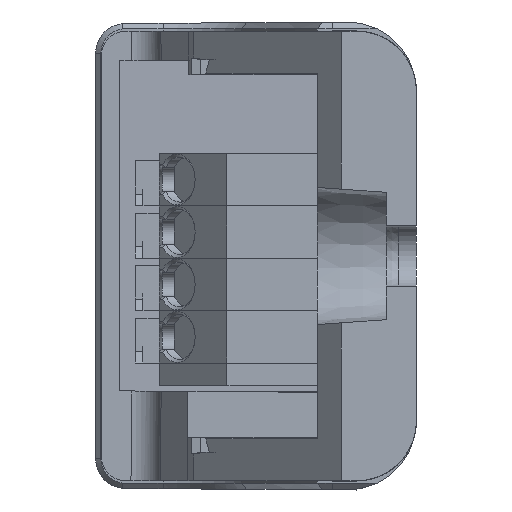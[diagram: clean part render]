
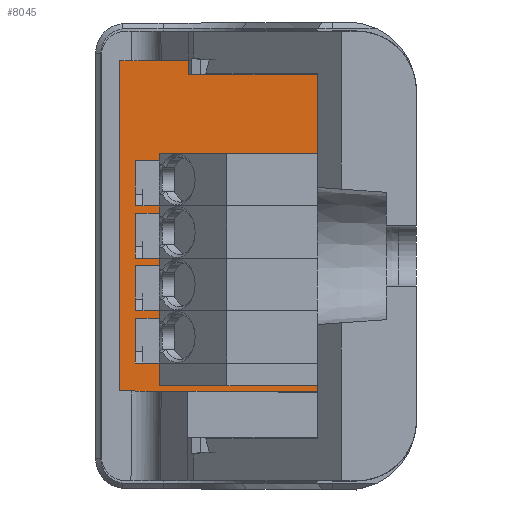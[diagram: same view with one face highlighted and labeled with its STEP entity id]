
A CAD part, left-side view. The second image highlights one B-rep face of the part: STEP entity #8045.
In plain terms, the highlighted planar face has unit normal (-1, -0.007, 0).
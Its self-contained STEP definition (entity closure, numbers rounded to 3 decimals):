
#481 = DIRECTION ( 'NONE',  ( -1., -0.007, 0. ) ) ;
#1181 = EDGE_CURVE ( 'NONE', #11248, #13155, #5917, .T. ) ;
#1356 = VERTEX_POINT ( 'NONE', #22686 ) ;
#1925 = CARTESIAN_POINT ( 'NONE',  ( -36.458, 6.643, 13.6 ) ) ;
#2287 = DIRECTION ( 'NONE',  ( 0.007, -1., 0.007 ) ) ;
#3206 = DIRECTION ( 'NONE',  ( 0., 0., -1. ) ) ;
#3743 = ORIENTED_EDGE ( 'NONE', *, *, #11584, .F. ) ;
#3782 = FACE_OUTER_BOUND ( 'NONE', #14153, .T. ) ;
#4642 = DIRECTION ( 'NONE',  ( 0.007, -1., -0.007 ) ) ;
#4658 = CARTESIAN_POINT ( 'NONE',  ( -36.458, 6.643, -9.092 ) ) ;
#5100 = CARTESIAN_POINT ( 'NONE',  ( -36.451, 5.64, 13.133 ) ) ;
#5430 = EDGE_CURVE ( 'NONE', #27418, #11248, #19776, .T. ) ;
#5917 = LINE ( 'NONE', #6016, #30462 ) ;
#6014 = LINE ( 'NONE', #16354, #17928 ) ;
#6016 = CARTESIAN_POINT ( 'NONE',  ( -36.451, 5.64, -0.25 ) ) ;
#6617 = VECTOR ( 'NONE', #28125, 1000. ) ;
#7118 = VECTOR ( 'NONE', #4642, 1000. ) ;
#7355 = LINE ( 'NONE', #1925, #6617 ) ;
#8045 = ADVANCED_FACE ( 'NONE', ( #3782 ), #12212, .T. ) ;
#8978 = LINE ( 'NONE', #26904, #21640 ) ;
#10052 = CARTESIAN_POINT ( 'NONE',  ( -36.451, 5.64, -9.099 ) ) ;
#10135 = VERTEX_POINT ( 'NONE', #24722 ) ;
#10175 = VECTOR ( 'NONE', #20201, 1000. ) ;
#10222 = ORIENTED_EDGE ( 'NONE', *, *, #22672, .F. ) ;
#10632 = VECTOR ( 'NONE', #27128, 1000. ) ;
#11248 = VERTEX_POINT ( 'NONE', #10052 ) ;
#11584 = EDGE_CURVE ( 'NONE', #27418, #10135, #7355, .T. ) ;
#12212 = PLANE ( 'NONE',  #21591 ) ;
#12324 = CARTESIAN_POINT ( 'NONE',  ( -36.55, 19.8, 13.034 ) ) ;
#13155 = VERTEX_POINT ( 'NONE', #5100 ) ;
#13738 = DIRECTION ( 'NONE',  ( 0., 0., 1. ) ) ;
#14153 = EDGE_LOOP ( 'NONE', ( #27886, #3743, #14231, #18476, #10222, #25544, #16432 ) ) ;
#14231 = ORIENTED_EDGE ( 'NONE', *, *, #5430, .T. ) ;
#14729 = CARTESIAN_POINT ( 'NONE',  ( -36.55, 19.8, 13.6 ) ) ;
#15286 = VERTEX_POINT ( 'NONE', #12324 ) ;
#16354 = CARTESIAN_POINT ( 'NONE',  ( -36.55, 19.796, 13.034 ) ) ;
#16432 = ORIENTED_EDGE ( 'NONE', *, *, #18312, .T. ) ;
#17111 = DIRECTION ( 'NONE',  ( -0.007, 1., 0. ) ) ;
#17728 = EDGE_CURVE ( 'NONE', #10135, #1356, #23301, .T. ) ;
#17785 = CARTESIAN_POINT ( 'NONE',  ( -36.551, 19.977, -8.999 ) ) ;
#17928 = VECTOR ( 'NONE', #2287, 1000. ) ;
#18312 = EDGE_CURVE ( 'NONE', #19732, #1356, #29131, .T. ) ;
#18476 = ORIENTED_EDGE ( 'NONE', *, *, #1181, .T. ) ;
#19578 = CARTESIAN_POINT ( 'NONE',  ( -36.55, 19.8, -9. ) ) ;
#19732 = VERTEX_POINT ( 'NONE', #19578 ) ;
#19776 = LINE ( 'NONE', #26041, #7118 ) ;
#20201 = DIRECTION ( 'NONE',  ( 0.007, -1., -0.007 ) ) ;
#21591 = AXIS2_PLACEMENT_3D ( 'NONE', #14729, #481, #17111 ) ;
#21640 = VECTOR ( 'NONE', #3206, 1000. ) ;
#22672 = EDGE_CURVE ( 'NONE', #15286, #13155, #6014, .T. ) ;
#22686 = CARTESIAN_POINT ( 'NONE',  ( -36.495, 11.942, -9.055 ) ) ;
#22908 = EDGE_CURVE ( 'NONE', #15286, #19732, #8978, .T. ) ;
#23301 = LINE ( 'NONE', #24736, #10632 ) ;
#24722 = CARTESIAN_POINT ( 'NONE',  ( -36.458, 6.643, -9.055 ) ) ;
#24736 = CARTESIAN_POINT ( 'NONE',  ( -36.55, 19.8, -9.055 ) ) ;
#25544 = ORIENTED_EDGE ( 'NONE', *, *, #22908, .T. ) ;
#26041 = CARTESIAN_POINT ( 'NONE',  ( -36.551, 19.977, -8.999 ) ) ;
#26904 = CARTESIAN_POINT ( 'NONE',  ( -36.55, 19.8, 13.6 ) ) ;
#27128 = DIRECTION ( 'NONE',  ( -0.007, 1., 0. ) ) ;
#27418 = VERTEX_POINT ( 'NONE', #4658 ) ;
#27886 = ORIENTED_EDGE ( 'NONE', *, *, #17728, .F. ) ;
#28125 = DIRECTION ( 'NONE',  ( 0., 0., 1. ) ) ;
#29131 = LINE ( 'NONE', #17785, #10175 ) ;
#30462 = VECTOR ( 'NONE', #13738, 1000. ) ;
